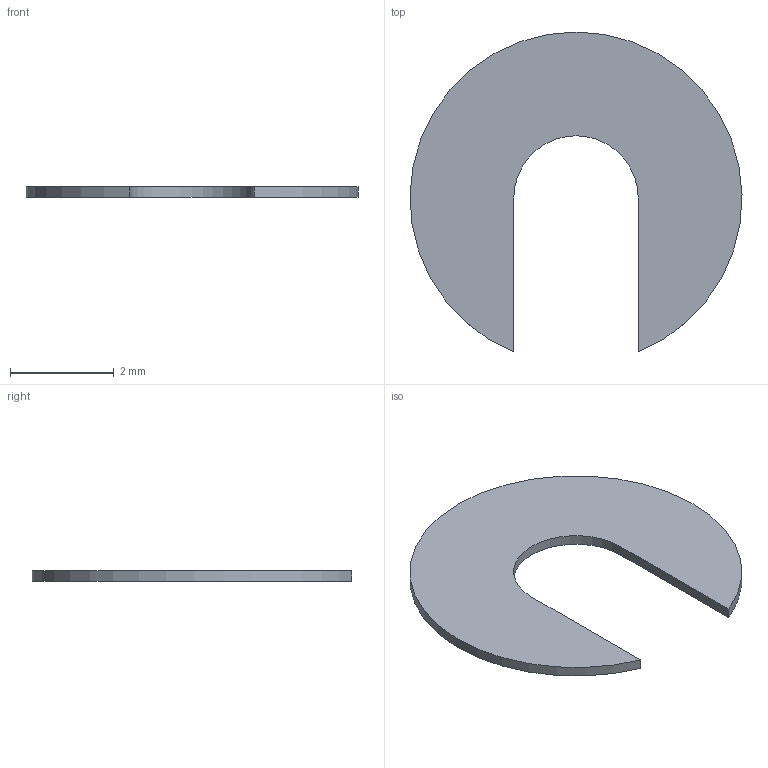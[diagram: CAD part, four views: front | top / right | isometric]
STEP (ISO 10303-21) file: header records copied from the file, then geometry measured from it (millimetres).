
FILE_DESCRIPTION(('SkyG Speed 90B - revision C6B-20 - 2026-10-16','LS-lip-shim'),'2;1');
FILE_NAME('LS-lip-shim_C6B-20','2026-10-16T01:43:26',('Author'),( 'Open CASCADE'),'Open CASCADE STEP processor 7.9','Open CASCADE 7.9' ,'Unknown');
FILE_SCHEMA(('AUTOMOTIVE_DESIGN { 1 0 10303 214 1 1 1 1 }'));
Length unit declared in the file: millimetre
Products named in the file (1): LS-lip-shim C6B-20
Bounding box: 6.4 x 6.17 x 0.2 mm (x, y, z)
Volume: 4.5 mm3; surface area: 50.3 mm2
Topology: 1 solids, 1 shells, 6 faces, 12 edges, 8 vertices
Faces by surface type: plane 4, cylinder 2
Entity records: 316 total; most frequent: CARTESIAN_POINT 70, DIRECTION 40, ORIENTED_EDGE 24, PCURVE 24, DEFINITIONAL_REPRESENTATION 24, LINE 15, VECTOR 15, B_SPLINE_CURVE_WITH_KNOTS 13
